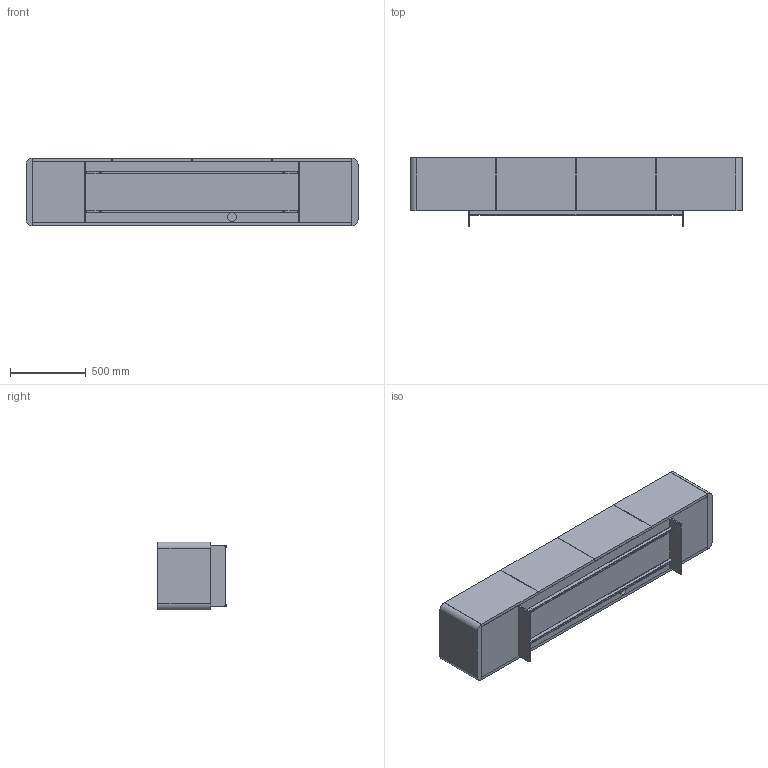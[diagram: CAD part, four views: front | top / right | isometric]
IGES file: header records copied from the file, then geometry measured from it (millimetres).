
Start section: SolidWorks IGES file using analytic representation for surfaces
Global section: file name: Y:\eforma\TECNICO\SOLIDWORKS\E-FORMA\6-MADIE\ALMA\02 parts\AL8LW_AL8DW_Alma TV Unit_220X45X45h_Top Wood.IGS; native system: SolidWorks 2022; preprocessor: SolidWorks 2022; author: eforma.tech; date: 240806.102222; units: millimetre
Bounding box: 2198 x 453 x 450 mm (x, y, z)
Volume: 99423021.1 mm3; surface area: 10811076.5 mm2
Topology: 25 solids, 25 shells, 387 faces, 875 edges, 522 vertices
Faces by surface type: plane 213, revolution 174
